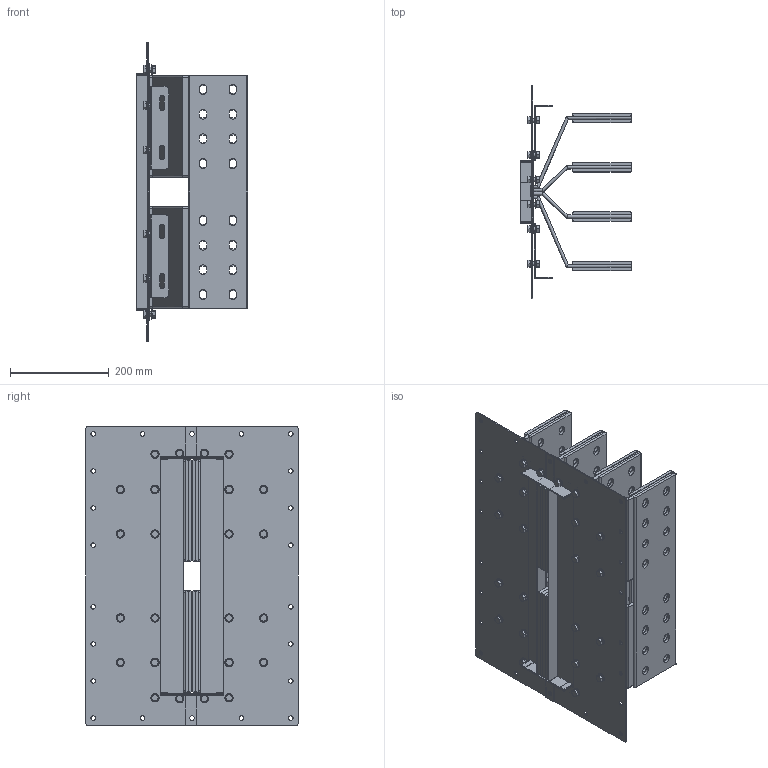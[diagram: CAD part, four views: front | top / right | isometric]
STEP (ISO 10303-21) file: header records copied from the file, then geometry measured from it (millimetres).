
FILE_DESCRIPTION(('CATIA V5 STEP','CAx-IF Rec.Pracs.--- Model Styling and Organization---1.5--- 2016-08-15','CAx-IF Rec.Pracs.---Supplemental Geometry---1.0---2011-11-01','CAx-IF Rec.Pracs.--- Composite Materials ---1.1---2010-07-15'),'2;1');
FILE_NAME('K:\COSCN 2011\32372311_RiduzioneSezioniBarre\03_Studio\__Modelli semplificati\XCP_UB semplificati per studi\XCP-HP_UB_4C_Pe_STD_Assieme\Al\XCP-HP_UB_4C_Pe_D_Assieme - 4000A Al\XCP-HP_UB_4C_Pe_D_Assieme - 4000A Al.stp','2025-05-12T09:52:21+00:00',('Utente Bticino'),('Bticino S.p.A.'),'CATIA Version 5-6 Release 2020 SP5','CATIA V5 STEP AP214 v2','none');
FILE_SCHEMA(('AUTOMOTIVE_DESIGN { 1 0 10303 214 1 1 1 1 }'));
Length unit declared in the file: millimetre
Products named in the file (8): XCP-HP_UB_4C_Pe_D_Assieme - 4000A Al; XCP-HP_UB_4C_Pe_D_PaccoBarre_4000A Al; XCP-HP_UB_4C_Pe_D_Lamiere_4000A Al; XCP-HP_UB_4C_Pe_D_PaccoBarre_4000A Al_1; XCP-HP_UB_4C_Pe_D - 4000A Al_Bandelle parallelo; Ass Vite+dado M8; Steel hex flanged SCREW M12x16; Steel hex flanged NUT M8
Assembly tree (30 placements, depth 3):
  XCP-HP_UB_4C_Pe_D_Assieme - 4000A Al
    XCP-HP_UB_4C_Pe_D_PaccoBarre_4000A Al
    XCP-HP_UB_4C_Pe_D_Lamiere_4000A Al
    XCP-HP_UB_4C_Pe_D_PaccoBarre_4000A Al_1
    XCP-HP_UB_4C_Pe_D - 4000A Al_Bandelle parallelo
    Ass Vite+dado M8  x24
      Steel hex flanged SCREW M12x16
      Steel hex flanged NUT M8
Bounding box: 225 x 430 x 605 mm (x, y, z)
Volume: 6074696.4 mm3; surface area: 2729819.4 mm2
Topology: 74 solids, 74 shells, 2412 faces, 6240 edges, 4024 vertices
Faces by surface type: plane 1064, cylinder 916, cone 192, bspline 192, torus 48
Entity records: 41929 total; most frequent: CARTESIAN_POINT 8462, ORIENTED_EDGE 7604, DIRECTION 5152, EDGE_CURVE 3802, VERTEX_POINT 2506, VECTOR 2404, LINE 2404, AXIS2_PLACEMENT_3D 2032
